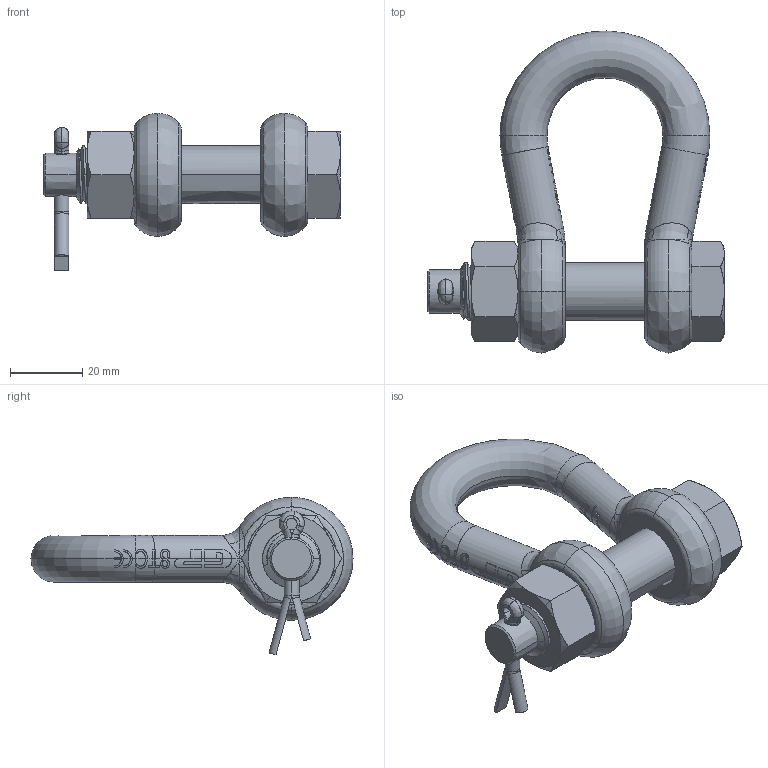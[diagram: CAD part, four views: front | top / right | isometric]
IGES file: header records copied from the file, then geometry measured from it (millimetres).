
Start section: START RECORD GO HERE.
Global section: file name: POGHMB13.igs; native system: Solidworks 2009                             ; preprocessor: Solidworks                 ; author: v.b.; organization: P4; date: 20090826.095040; units: millimetre
Bounding box: 82 x 89 x 43.49 mm (x, y, z)
Surface area: 20167.2 mm2 (no closed solid volume)
Topology: 0 solids, 0 shells, 711 faces, 5216 edges, 5207 vertices
Faces by surface type: bspline 277, plane 226, revolution 208
